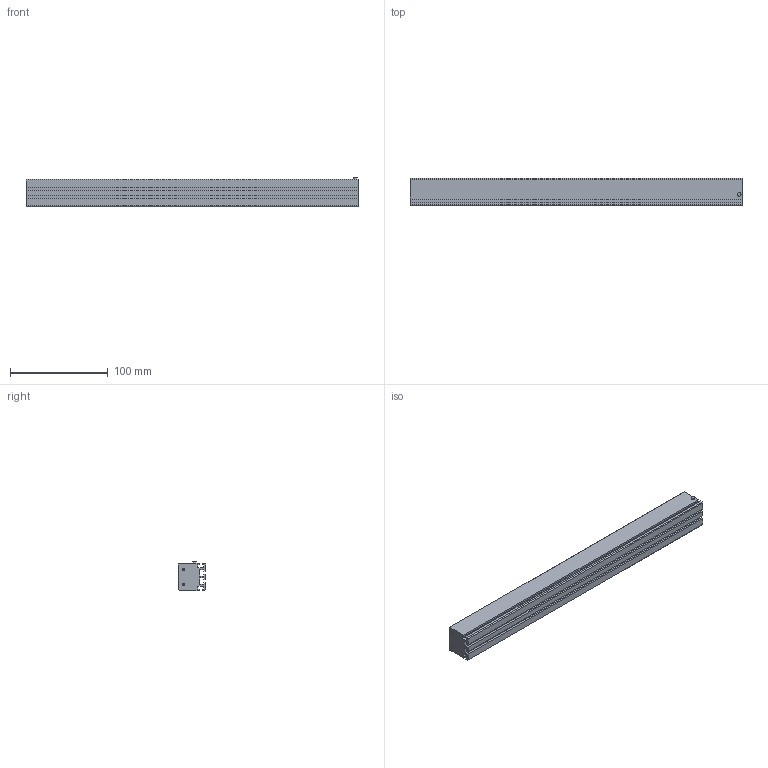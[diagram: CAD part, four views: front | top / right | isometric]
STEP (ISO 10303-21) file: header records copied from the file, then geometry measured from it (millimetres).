
FILE_DESCRIPTION (( 'STEP AP203' ), '1' );
FILE_NAME ('LRD-B4-340.STEP', '2022-08-22T06:48:31', ( 'TNT' ), ( '' ), 'SwSTEP 2.0', 'SolidWorks 2018', '' );
FILE_SCHEMA (( 'CONFIG_CONTROL_DESIGN' ));
Length unit declared in the file: millimetre
Products named in the file (1): LRD-B4-340
Bounding box: 340 x 27.7 x 30.6 mm (x, y, z)
Volume: 222830 mm3; surface area: 62547.7 mm2
Topology: 1 solids, 1 shells, 66 faces, 178 edges, 112 vertices
Faces by surface type: plane 48, cylinder 10, cone 8
Entity records: 2059 total; most frequent: CARTESIAN_POINT 349, ORIENTED_EDGE 340, DIRECTION 324, EDGE_CURVE 170, VECTOR 150, LINE 150, VERTEX_POINT 112, AXIS2_PLACEMENT_3D 87
